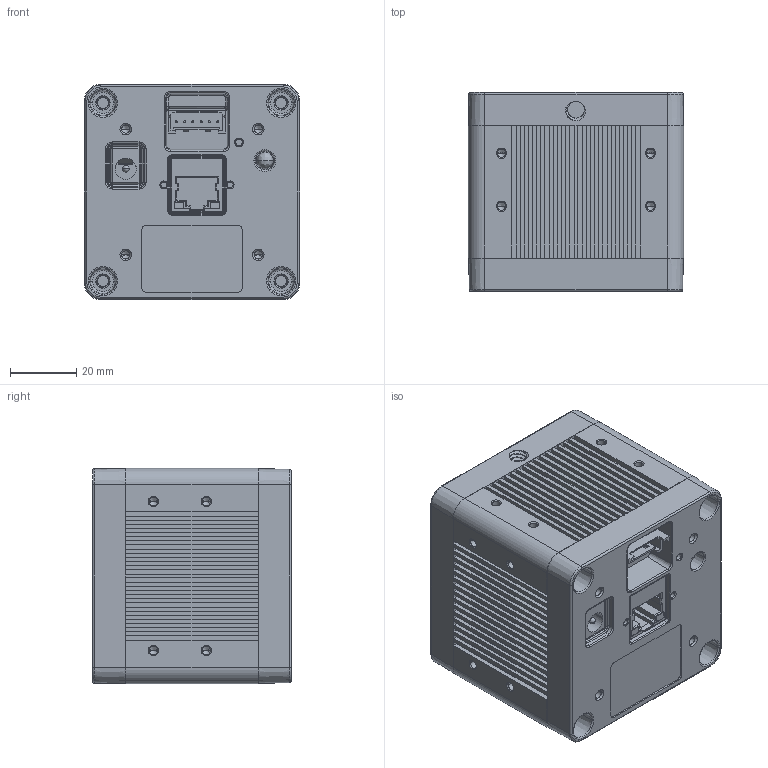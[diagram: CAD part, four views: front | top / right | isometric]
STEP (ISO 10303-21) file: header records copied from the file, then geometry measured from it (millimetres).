
FILE_DESCRIPTION((''),'2;1');
FILE_NAME('DCAM560C_43D_ASM','2022-06-17T11:20:25',('Lincoln'),(''),'CREO PARAMETRIC BY PTC INC, 2018260','CREO PARAMETRIC BY PTC INC, 2018260','');
FILE_SCHEMA(('CONFIG_CONTROL_DESIGN','GEOMETRIC_VALIDATION_PROPERTIES_MIM'));
Length unit declared in the file: millimetre
Products named in the file (4): 43D_560C_MIDDLE_COVER; 43D_550P; 43D_TOP_COVER_DS77; DCAM560C_43D_ASM
Assembly tree (3 placements, depth 2):
  DCAM560C_43D_ASM
    43D_560C_MIDDLE_COVER
    43D_550P
    43D_TOP_COVER_DS77
Bounding box: 65 x 60 x 65 mm (x, y, z)
Volume: 225121.6 mm3; surface area: 61124.4 mm2
Topology: 5 solids, 6 shells, 1171 faces, 3148 edges, 2004 vertices
Faces by surface type: plane 669, cone 224, cylinder 192, torus 48, bspline 28, sphere 10
Entity records: 47427 total; most frequent: CARTESIAN_POINT 11446, ORIENTED_EDGE 6172, DIRECTION 5954, EDGE_CURVE 3086, VECTOR 2216, LINE 2216, PRESENTATION_STYLE_ASSIGNMENT 2129, STYLED_ITEM 2122
